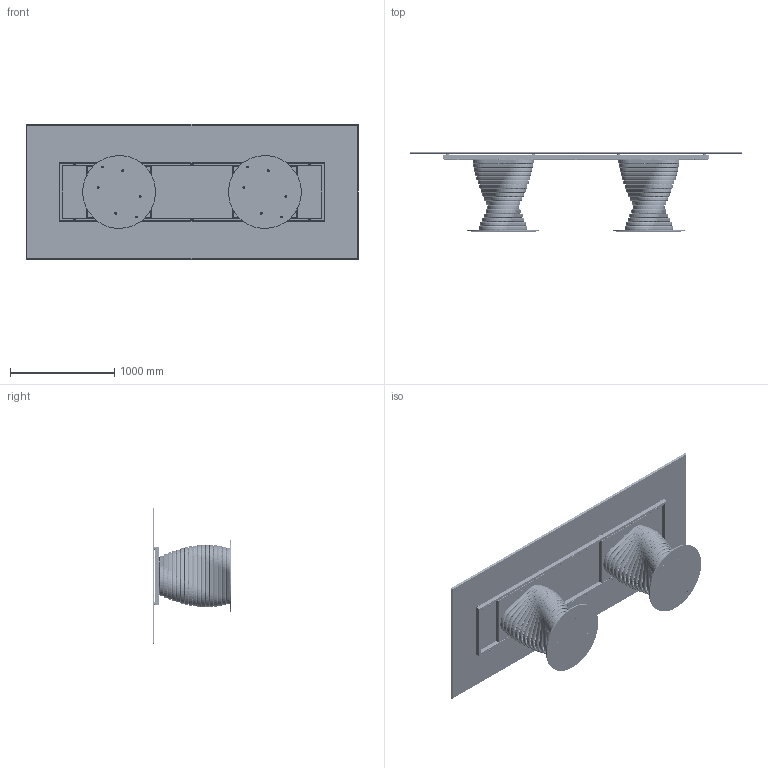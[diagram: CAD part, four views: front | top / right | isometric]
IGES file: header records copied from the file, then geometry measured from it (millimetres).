
Start section: SolidWorks IGES file using analytic representation for surfaces
Global section: file name: Y:\eforma\TECNICO\SOLIDWORKS\E-FORMA\1-TAVOLI\ROTOLO\02 parts\RO27C.IGS; native system: SolidWorks 2022; preprocessor: SolidWorks 2022; author: eforma.tech; date: 240807.151958; units: millimetre
Bounding box: 3190 x 758 x 1300 mm (x, y, z)
Volume: 89751265.8 mm3; surface area: 31246308.8 mm2
Topology: 187 solids, 187 shells, 2844 faces, 6688 edges, 4172 vertices
Faces by surface type: revolution 1664, plane 1180
